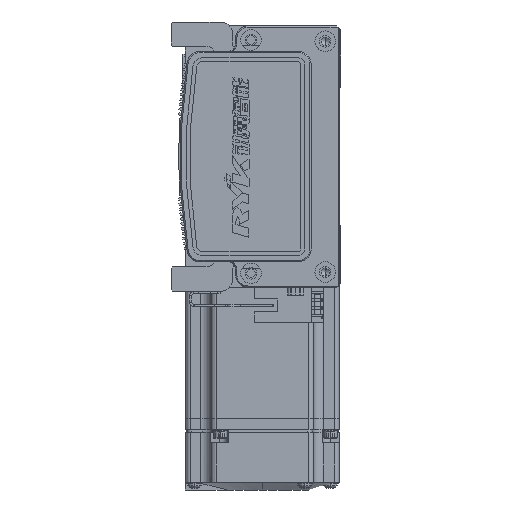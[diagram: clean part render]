
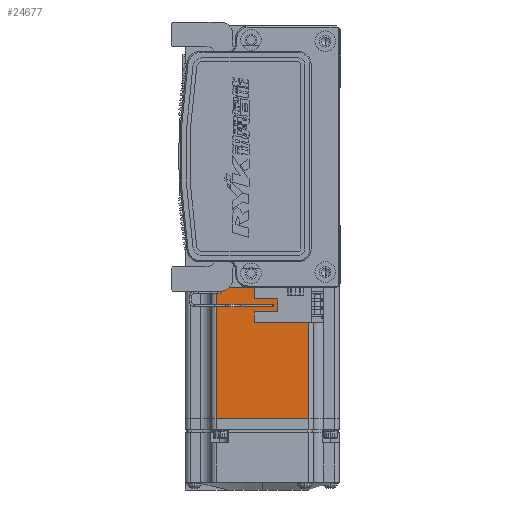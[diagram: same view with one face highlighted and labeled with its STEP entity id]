
A CAD part, left-side view. The second image highlights one B-rep face of the part: STEP entity #24677.
In plain terms, the highlighted planar face has unit normal (-1, 0, 0) as drawn and (0, 0, 1) by its records, which use the part's own axes.
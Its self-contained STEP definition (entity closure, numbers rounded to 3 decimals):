
#532 = LINE ( 'NONE', #45953, #65432 ) ;
#3078 = ORIENTED_EDGE ( 'NONE', *, *, #3372, .F. ) ;
#3247 = VECTOR ( 'NONE', #23361, 1000. ) ;
#3372 = EDGE_CURVE ( 'NONE', #21680, #16083, #8250, .T. ) ;
#4420 = CARTESIAN_POINT ( 'NONE',  ( -6.5, -18., 30. ) ) ;
#6380 = CARTESIAN_POINT ( 'NONE',  ( -6.5, -25., 30. ) ) ;
#6832 = PLANE ( 'NONE',  #14883 ) ;
#8250 = LINE ( 'NONE', #33579, #3247 ) ;
#9327 = ORIENTED_EDGE ( 'NONE', *, *, #39303, .T. ) ;
#9536 = CARTESIAN_POINT ( 'NONE',  ( -7.75, 18., 30. ) ) ;
#14883 = AXIS2_PLACEMENT_3D ( 'NONE', #6380, #43987, #32592 ) ;
#16083 = VERTEX_POINT ( 'NONE', #52727 ) ;
#17405 = LINE ( 'NONE', #4420, #23160 ) ;
#18013 = DIRECTION ( 'NONE',  ( -1., 0., 0. ) ) ;
#19784 = CARTESIAN_POINT ( 'NONE',  ( -70.95, -18., 30. ) ) ;
#20119 = DIRECTION ( 'NONE',  ( 0., -1., 0. ) ) ;
#21680 = VERTEX_POINT ( 'NONE', #9536 ) ;
#23160 = VECTOR ( 'NONE', #52332, 1000. ) ;
#23361 = DIRECTION ( 'NONE',  ( 0., -1., 0. ) ) ;
#24677 = ADVANCED_FACE ( 'NONE', ( #32505 ), #6832, .T. ) ;
#30510 = VECTOR ( 'NONE', #18013, 1000. ) ;
#32505 = FACE_OUTER_BOUND ( 'NONE', #58550, .T. ) ;
#32592 = DIRECTION ( 'NONE',  ( 1., 0., 0. ) ) ;
#33579 = CARTESIAN_POINT ( 'NONE',  ( -7.75, 0., 30. ) ) ;
#34532 = CARTESIAN_POINT ( 'NONE',  ( -70.95, 18., 30. ) ) ;
#38664 = CARTESIAN_POINT ( 'NONE',  ( -6.5, 18., 30. ) ) ;
#39303 = EDGE_CURVE ( 'NONE', #21680, #43162, #58889, .T. ) ;
#43162 = VERTEX_POINT ( 'NONE', #34532 ) ;
#43987 = DIRECTION ( 'NONE',  ( 0., 0., 1. ) ) ;
#45953 = CARTESIAN_POINT ( 'NONE',  ( -70.95, 0., 30. ) ) ;
#52332 = DIRECTION ( 'NONE',  ( -1., 0., 0. ) ) ;
#52727 = CARTESIAN_POINT ( 'NONE',  ( -7.75, -18., 30. ) ) ;
#52873 = EDGE_CURVE ( 'NONE', #16083, #68231, #17405, .T. ) ;
#53969 = ORIENTED_EDGE ( 'NONE', *, *, #57470, .T. ) ;
#57470 = EDGE_CURVE ( 'NONE', #43162, #68231, #532, .T. ) ;
#58550 = EDGE_LOOP ( 'NONE', ( #3078, #9327, #53969, #63113 ) ) ;
#58889 = LINE ( 'NONE', #38664, #30510 ) ;
#63113 = ORIENTED_EDGE ( 'NONE', *, *, #52873, .F. ) ;
#65432 = VECTOR ( 'NONE', #20119, 1000. ) ;
#68231 = VERTEX_POINT ( 'NONE', #19784 ) ;
